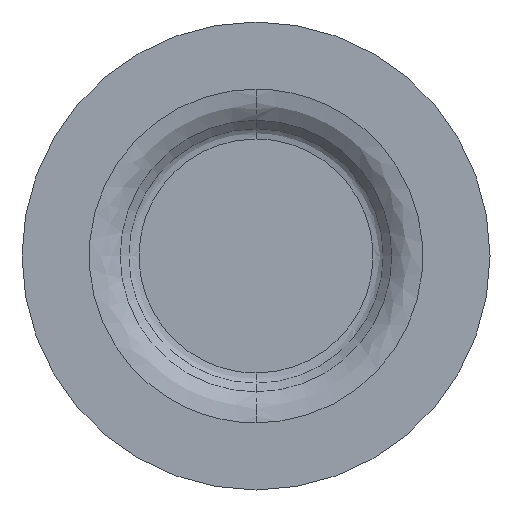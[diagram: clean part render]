
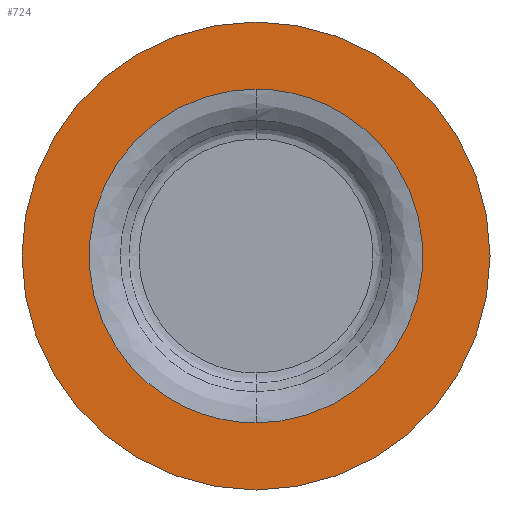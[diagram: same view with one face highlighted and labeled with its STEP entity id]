
A CAD part, front view. The second image highlights one B-rep face of the part: STEP entity #724.
In plain terms, the highlighted planar face has unit normal (0, -1, 0).
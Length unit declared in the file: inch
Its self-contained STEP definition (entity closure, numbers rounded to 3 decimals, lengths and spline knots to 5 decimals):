
#7 = CARTESIAN_POINT ( 'NONE',  ( 0., -0.235, 0.71314 ) ) ;
#56 = ORIENTED_EDGE ( 'NONE', *, *, #387, .F. ) ;
#63 = ORIENTED_EDGE ( 'NONE', *, *, #574, .F. ) ;
#66 = DIRECTION ( 'NONE',  ( 0., 0., 1. ) ) ;
#76 = VERTEX_POINT ( 'NONE', #731 ) ;
#134 = CIRCLE ( 'NONE', #439, 1. ) ;
#136 = CIRCLE ( 'NONE', #287, 1. ) ;
#137 = EDGE_LOOP ( 'NONE', ( #56, #741 ) ) ;
#172 = DIRECTION ( 'NONE',  ( 0., 1., 0. ) ) ;
#201 = CARTESIAN_POINT ( 'NONE',  ( 1.42628, -0.235, -0.71314 ) ) ;
#213 = CARTESIAN_POINT ( 'NONE',  ( 1.42628, -0.235, 0.71314 ) ) ;
#237 = CARTESIAN_POINT ( 'NONE',  ( -1.42628, -0.235, 0.71314 ) ) ;
#246 = CARTESIAN_POINT ( 'NONE',  ( -1.42628, -0.235, -0.71314 ) ) ;
#262 = DIRECTION ( 'NONE',  ( 0., 1., 0. ) ) ;
#265 = ORIENTED_EDGE ( 'NONE', *, *, #514, .F. ) ;
#287 = AXIS2_PLACEMENT_3D ( 'NONE', #363, #172, #66 ) ;
#290 = CARTESIAN_POINT ( 'NONE',  ( 0.71314, -0.235, 0. ) ) ;
#315 = VERTEX_POINT ( 'NONE', #350 ) ;
#344 =( BOUNDED_CURVE ( )  B_SPLINE_CURVE ( 3, ( #638, #201, #213, #517 ),
 .UNSPECIFIED., .F., .T. ) 
 B_SPLINE_CURVE_WITH_KNOTS ( ( 4, 4 ),
 ( 0., 1. ),
 .UNSPECIFIED. ) 
 CURVE ( )  GEOMETRIC_REPRESENTATION_ITEM ( )  RATIONAL_B_SPLINE_CURVE ( ( 1., 0.333, 0.333, 1. ) ) 
 REPRESENTATION_ITEM ( '' )  );
#350 = CARTESIAN_POINT ( 'NONE',  ( 0., -0.235, 1. ) ) ;
#363 = CARTESIAN_POINT ( 'NONE',  ( 0., -0.235, 0. ) ) ;
#367 =( BOUNDED_CURVE ( )  B_SPLINE_CURVE ( 3, ( #7, #237, #246, #411 ),
 .UNSPECIFIED., .F., .F. ) 
 B_SPLINE_CURVE_WITH_KNOTS ( ( 4, 4 ),
 ( 0., 1. ),
 .UNSPECIFIED. ) 
 CURVE ( )  GEOMETRIC_REPRESENTATION_ITEM ( )  RATIONAL_B_SPLINE_CURVE ( ( 1., 0.333, 0.333, 1. ) ) 
 REPRESENTATION_ITEM ( '' )  );
#383 = DIRECTION ( 'NONE',  ( 0., 0., 1. ) ) ;
#387 = EDGE_CURVE ( 'NONE', #315, #745, #134, .T. ) ;
#400 = CARTESIAN_POINT ( 'NONE',  ( 0., -0.235, 0.71314 ) ) ;
#411 = CARTESIAN_POINT ( 'NONE',  ( 0., -0.235, -0.71314 ) ) ;
#439 = AXIS2_PLACEMENT_3D ( 'NONE', #746, #262, #383 ) ;
#461 = FACE_BOUND ( 'NONE', #676, .T. ) ;
#493 = EDGE_CURVE ( 'NONE', #745, #315, #136, .T. ) ;
#514 = EDGE_CURVE ( 'NONE', #667, #76, #367, .T. ) ;
#517 = CARTESIAN_POINT ( 'NONE',  ( 0., -0.235, 0.71314 ) ) ;
#574 = EDGE_CURVE ( 'NONE', #76, #667, #344, .T. ) ;
#587 = DIRECTION ( 'NONE',  ( 0., 0., 1. ) ) ;
#638 = CARTESIAN_POINT ( 'NONE',  ( 0., -0.235, -0.71314 ) ) ;
#644 = PLANE ( 'NONE',  #727 ) ;
#667 = VERTEX_POINT ( 'NONE', #400 ) ;
#676 = EDGE_LOOP ( 'NONE', ( #265, #63 ) ) ;
#703 = FACE_OUTER_BOUND ( 'NONE', #137, .T. ) ;
#719 = CARTESIAN_POINT ( 'NONE',  ( 0., -0.235, -1. ) ) ;
#724 = ADVANCED_FACE ( 'NONE', ( #461, #703 ), #644, .F. ) ;
#727 = AXIS2_PLACEMENT_3D ( 'NONE', #290, #767, #587 ) ;
#731 = CARTESIAN_POINT ( 'NONE',  ( 0., -0.235, -0.71314 ) ) ;
#741 = ORIENTED_EDGE ( 'NONE', *, *, #493, .F. ) ;
#745 = VERTEX_POINT ( 'NONE', #719 ) ;
#746 = CARTESIAN_POINT ( 'NONE',  ( 0., -0.235, 0. ) ) ;
#767 = DIRECTION ( 'NONE',  ( 0., 1., 0. ) ) ;
